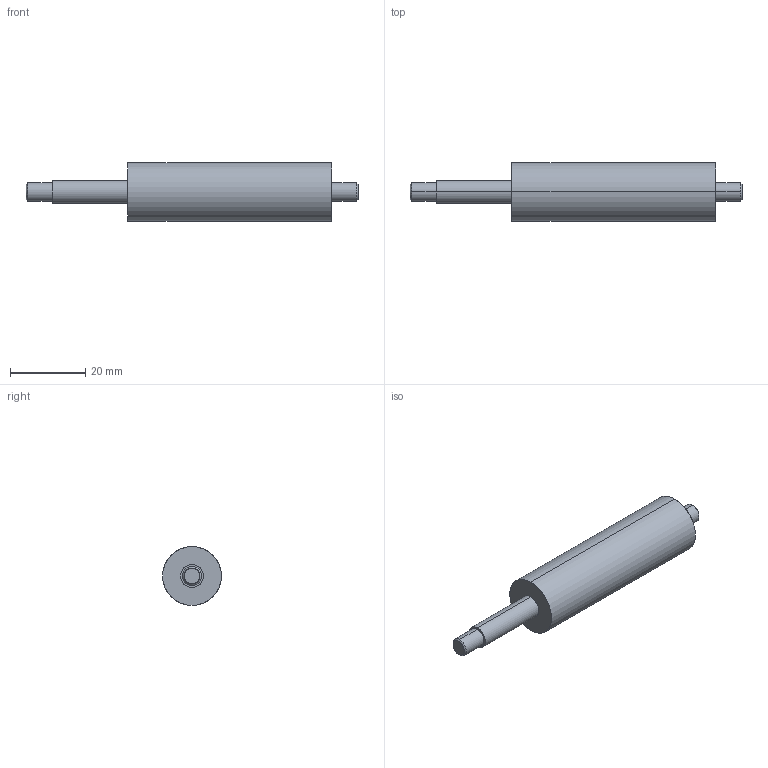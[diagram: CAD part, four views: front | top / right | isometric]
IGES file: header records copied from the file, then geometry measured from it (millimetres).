
Start section: SolidWorks IGES file using analytic representation for surfaces
Bounding box: 88 x 15.6 x 15.6 mm (x, y, z)
Surface area: 3617.9 mm2 (no closed solid volume)
Topology: 0 solids, 0 shells, 17 faces, 304 edges, 304 vertices
Faces by surface type: revolution 12, bspline 5
